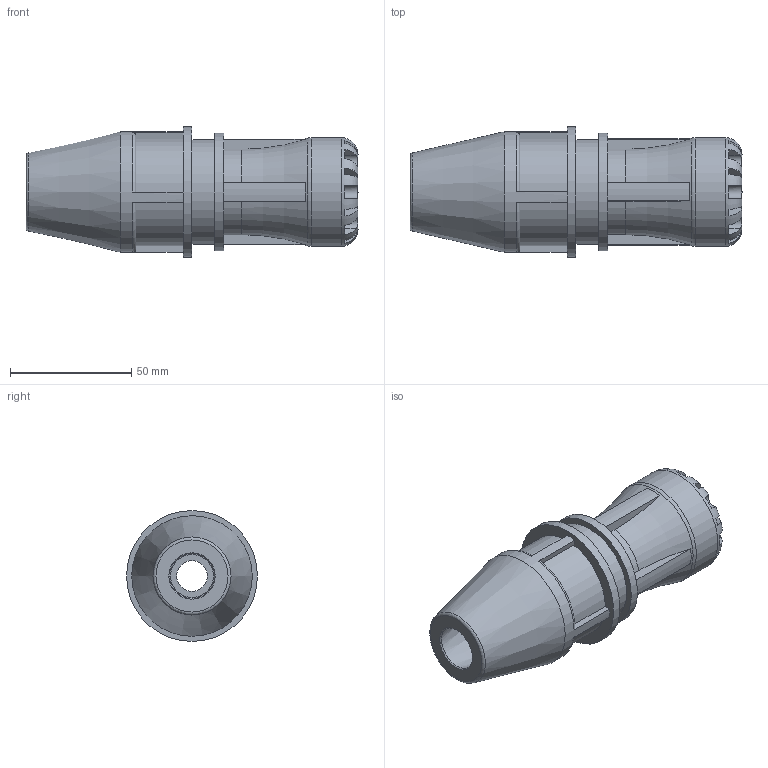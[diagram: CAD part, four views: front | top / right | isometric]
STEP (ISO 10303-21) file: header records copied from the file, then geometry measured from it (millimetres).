
FILE_DESCRIPTION(/* description */ ('PLASSON UNIVERSAL COUPLING 14-18X25 SERIES 1'),/* implementation_level */ '2;1');
FILE_NAME(/* name */ 'C:\Dropbox\KIMPROJECTS-Inventor\99-16-3568-Processing\10017\100170025018.ipt.step',/* time_stamp */ '2017-01-22T10:44:44+02:00',/* author */ ('KIM'),/* organization */ (''),/* preprocessor_version */ 'ST-DEVELOPER v15.6',/* originating_system */ 'Autodesk Inventor 2015',/* authorisation */ '');
FILE_SCHEMA (('AUTOMOTIVE_DESIGN { 1 0 10303 214 3 1 1 }'));
Length unit declared in the file: millimetre
Products named in the file (1): 100170025018
Bounding box: 137 x 54 x 54 mm (x, y, z)
Volume: 138466 mm3; surface area: 35733.9 mm2
Topology: 1 solids, 1 shells, 125 faces, 316 edges, 200 vertices
Faces by surface type: plane 77, cylinder 36, torus 8, cone 4
Full cylindrical faces by diameter (mm): 12.64 x1, 17.64 x1, 25 x1, 43.2 x1, 45 x1, 48.6 x1, 49.68 x1, 54 x1
Entity records: 4407 total; most frequent: CARTESIAN_POINT 1330, DIRECTION 616, ORIENTED_EDGE 596, EDGE_CURVE 298, AXIS2_PLACEMENT_3D 248, VERTEX_POINT 198, EDGE_LOOP 150, STYLED_ITEM 126
